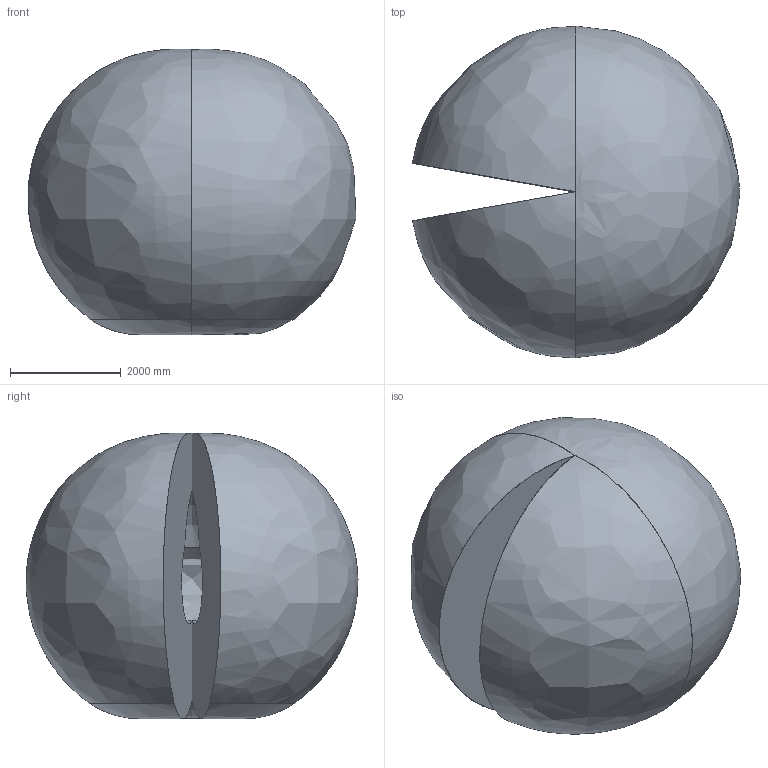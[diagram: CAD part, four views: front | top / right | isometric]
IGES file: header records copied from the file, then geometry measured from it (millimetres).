
Start section: SolidWorks IGES file using analytic representation for surfaces
Global section: file name: C:\Users\SEALDUN\OneDrive - ABB\Documents\R&D Robotics\Work Items\WI 632927 light weight hole removal\IGES\IRB5720-LID-MH_90kg-300_OC_03_IGES_J\IRB5720-LID_90kg-300_OmniCore_rev00_Working-space.igs; native system: SolidWorks 2024; preprocessor: SolidWorks 2024; author: SEALDUN; date: 250708.123136; units: millimetre
Bounding box: 5927.48 x 6000.32 x 5157.6 mm (x, y, z)
Surface area: 137199840.7 mm2 (no closed solid volume)
Topology: 0 solids, 0 shells, 14 faces, 244 edges, 232 vertices
Faces by surface type: bspline 14
